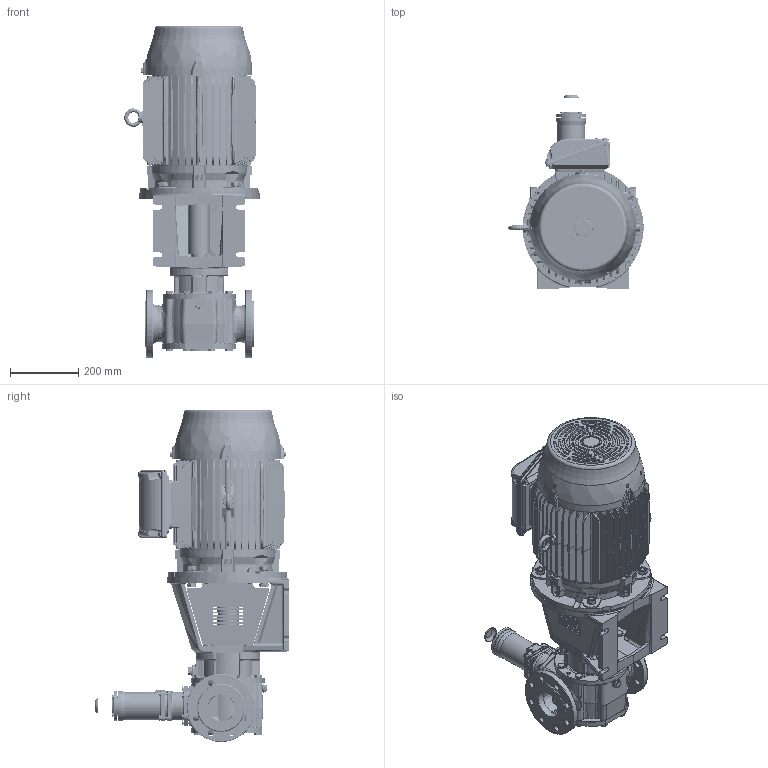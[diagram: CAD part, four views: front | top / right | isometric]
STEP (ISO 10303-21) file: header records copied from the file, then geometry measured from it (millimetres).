
FILE_DESCRIPTION(/* description */ (''),/* implementation_level */ '2;1');
FILE_NAME(/* name */ 'C:\V\JPP\Designs\GEAR PUMPS\PRODUCT ENGINEERING\EUROPE\TG BLOC\TG BLOC_58-80_G2_O_RV1-_160M-STEP.stp',/* time_stamp */ '2021-03-19T10:42:24+01:00',/* author */ ('A77THR'),/* organization */ (''),/* preprocessor_version */ 'ST-DEVELOPER v18.1',/* originating_system */ 'Autodesk Inventor 2020',/* authorisation */ '');
FILE_SCHEMA (('AUTOMOTIVE_DESIGN { 1 0 10303 214 3 1 1 }'));
Length unit declared in the file: millimetre
Products named in the file (1): TG BLOC_58-80_G2_O_RV1-_160M
Bounding box: 397.99 x 571 x 975 mm (x, y, z)
Volume: 49982057.4 mm3; surface area: 2536124.2 mm2
Topology: 1 solids, 1 shells, 4796 faces, 12527 edges, 7925 vertices
Faces by surface type: plane 1991, cylinder 1083, bspline 902, cone 636, torus 134, sphere 50
Full cylindrical faces by diameter (mm): 4 x1, 4.5 x8, 4.917 x8, 5 x4, 5.459 x4, 6 x4, 6.3 x1, 6.647 x1, 6.8 x2, 7 x8, 7.323 x12, 7.5 x3, 8 x21, 8.7 x4, 9 x12, 9.4 x1, 10 x8, 10.106 x7, 10.2 x2, 11.053 x4, 11.4 x12, 11.445 x2, 11.6 x7, 12 x4, 12.5 x3, 13 x5, 13.157 x2, 13.2 x2, 14 x8, 15.011 x2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
Entity records: 190813 total; most frequent: CARTESIAN_POINT 75207, ORIENTED_EDGE 24870, DIRECTION 21459, EDGE_CURVE 12435, AXIS2_PLACEMENT_3D 8273, VERTEX_POINT 7921, EDGE_LOOP 5236, LINE 4913
